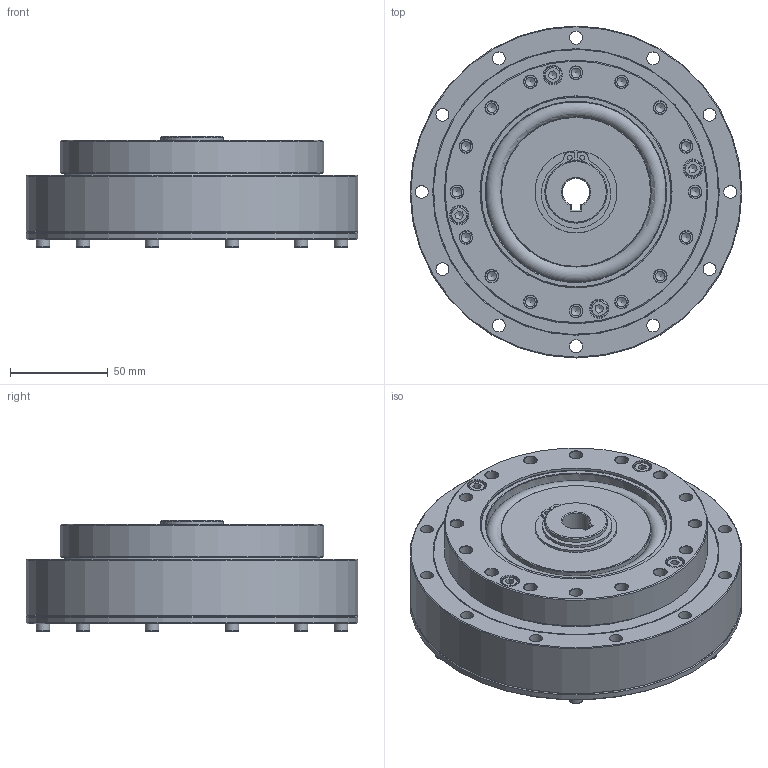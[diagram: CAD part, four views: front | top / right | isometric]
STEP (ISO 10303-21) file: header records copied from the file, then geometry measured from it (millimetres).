
FILE_DESCRIPTION(/* description */ (''),/* implementation_level */ '2;1');
FILE_NAME(/* name */ 'S:\TB00F\研發課二組\機密級\1.\X2\8A2D8A08\X0\\01-DT\DT-中空型暫存\規格40\00.承認圖\AK001521\AK001521.stp',/* time_stamp */ '2024-07-15T10:40:14+08:00',/* author */ ('bb1128.zheng'),/* organization */ (''),/* preprocessor_version */ 'ST-DEVELOPER v15.2',/* originating_system */ 'Autodesk Inventor 2014',/* authorisation */ '');
FILE_SCHEMA (('AUTOMOTIVE_DESIGN { 1 0 10303 214 3 1 1 }'));
Length unit declared in the file: centimetre
Products named in the file (1): AK0011N1
Bounding box: 170 x 170 x 57 mm (x, y, z)
Volume: 716643.6 mm3; surface area: 109502 mm2
Topology: 1 solids, 17 shells, 431 faces, 956 edges, 610 vertices
Faces by surface type: plane 159, cone 130, cylinder 118, torus 24
Full cylindrical faces by diameter (mm): 2.5 x2, 3.242 x6, 4 x6, 4.5 x6, 4.917 x16, 5 x4, 5.5 x4, 6.6 x40, 7 x6, 8.5 x4, 9.5 x4, 26.061 x1, 30.3 x1, 32 x1, 42 x1, 67.5 x1, 76.96 x1, 92.35 x1, 98.17 x2, 135 x1, 140 x1, 146 x1, 170 x2
Entity records: 9865 total; most frequent: DIRECTION 1740, CARTESIAN_POINT 1640, ORIENTED_EDGE 1162, EDGE_LOOP 792, AXIS2_PLACEMENT_3D 791, EDGE_CURVE 581, VERTEX_POINT 499, ADVANCED_FACE 431
